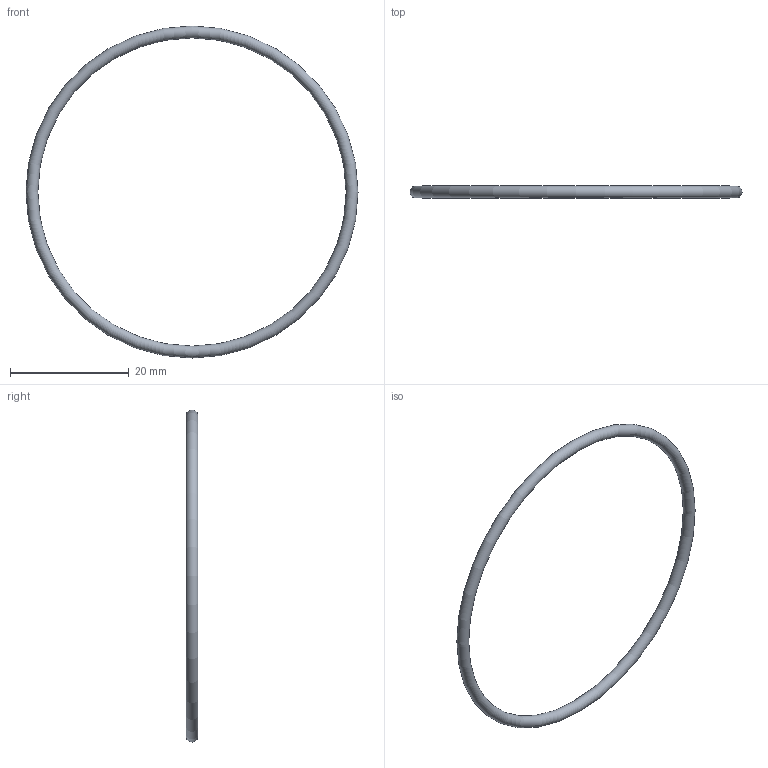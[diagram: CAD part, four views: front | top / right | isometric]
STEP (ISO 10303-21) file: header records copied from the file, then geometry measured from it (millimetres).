
FILE_DESCRIPTION( ( 'STEP AP203' ), '1' );
FILE_NAME( 'C:/Temp/Ganter_Step_05_03_2020/data/3_5/or638/O-Ring OR638-52.00-2.00-70.stp', '2020-03-12T13:44:23', ( 'License CC BY-ND 4.0' ), ( 'CADENAS' ), ' ', 'PARTsolutions', ' ' );
FILE_SCHEMA( ( 'CONFIG_CONTROL_DESIGN' ) );
Length unit declared in the file: millimetre
Products named in the file (1): _O-Ring OR638-52.00-2.00-70
Bounding box: 56 x 2 x 56 mm (x, y, z)
Volume: 533 mm3; surface area: 1065.9 mm2
Topology: 1 solids, 1 shells, 1 faces, 2 edges, 1 vertices
Faces by surface type: torus 1
Entity records: 62 total; most frequent: CC_DESIGN_PERSON_AND_ORGANIZATION_ASSIGNMENT 5, PERSON_AND_ORGANIZATION_ROLE 4, DIRECTION 4, CARTESIAN_POINT 3, DATE_TIME_ROLE 2, CC_DESIGN_DATE_AND_TIME_ASSIGNMENT 2, AXIS2_PLACEMENT_3D 2, DIMENSIONAL_EXPONENTS 2
